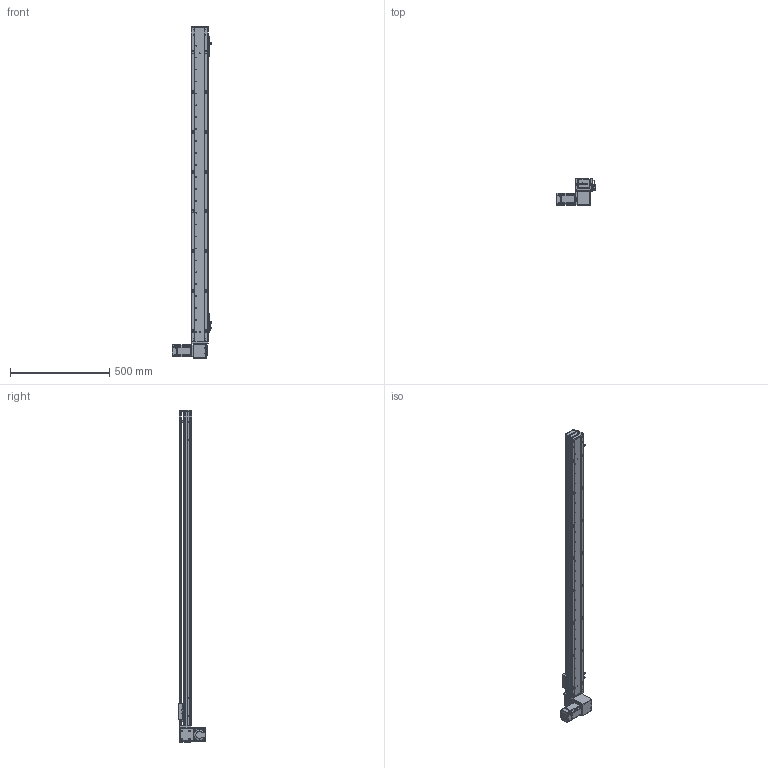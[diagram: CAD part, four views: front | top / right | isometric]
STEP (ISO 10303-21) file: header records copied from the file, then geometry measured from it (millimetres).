
FILE_DESCRIPTION (( 'STEP AP203' ), '1' );
FILE_NAME ('RY80-T-300-DL.SLDASM_1400.step', '2021-03-01T01:39:09', ( '盈信电脑' ), ( '东莞市道滘镇水果街19号' ), 'SwSTEP 2.0', 'SolidWorks 2012', '' );
FILE_SCHEMA (( 'CONFIG_CONTROL_DESIGN' ));
Products named in the file (19): RY80-T-上下折同步轮盖板; RY100-T粣創揤踡裔; RY80-T-300-DL.SLDASM_1400; 1; RY80-T-M4蹟翐3; RY80-T肮祭謫狟殏俋欶; 滅袉蝶18-10; RY80-T肮祭湍揤輸2; RY80-T肮祭湍揤輸1; RY80-T萇儂假蚾啣; RY80-T翋肮祭謫裔啣; RY80-T-翋肮祭謫釱; 覜茼ん672; RY80俋离覜茼え; 672嫖萇羲壽假蚾釱; RY80-T肮祭謫臏賑輸; RY80-T綴裔啣; RY80-T-300-DL倰第奻裔啣_1400; RY80-T-300-DL倰第菁釱_1400
Assembly tree (24 placements, depth 2):
  RY80-T-300-DL.SLDASM_1400
    RY80-T-300-DL倰第菁釱_1400
    RY80-T肮祭謫臏賑輸
    RY80-T-300-DL倰第奻裔啣_1400
    RY80-T綴裔啣
    672嫖萇羲壽假蚾釱  x2
    覜茼ん672  x3
    RY80俋离覜茼え
    RY80-T-翋肮祭謫釱
    RY80-T肮祭湍揤輸1
    RY80-T肮祭湍揤輸2
    RY80-T萇儂假蚾啣
    RY80-T翋肮祭謫裔啣  x2
    滅袉蝶18-10  x2
    1
    RY80-T肮祭謫狟殏俋欶
    RY80-T-M4蹟翐3  x2
    RY80-T-上下折同步轮盖板
    RY100-T粣創揤踡裔
Bounding box: 198.7 x 134.5 x 1670 mm (x, y, z)
Volume: 2705605 mm3; surface area: 1154922 mm2
Topology: 24 solids, 24 shells, 2544 faces, 7024 edges, 4561 vertices
Faces by surface type: plane 1349, cylinder 989, cone 150, bspline 56
Entity records: 80413 total; most frequent: CARTESIAN_POINT 19684, ORIENTED_EDGE 12492, DIRECTION 11726, EDGE_CURVE 6246, VERTEX_POINT 4102, AXIS2_PLACEMENT_3D 3960, VECTOR 3806, LINE 3806
